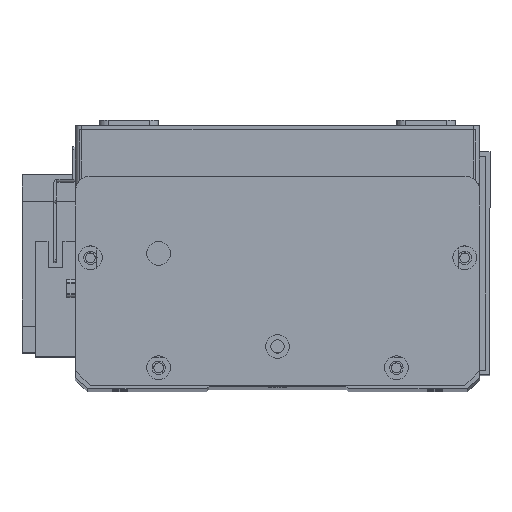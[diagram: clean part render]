
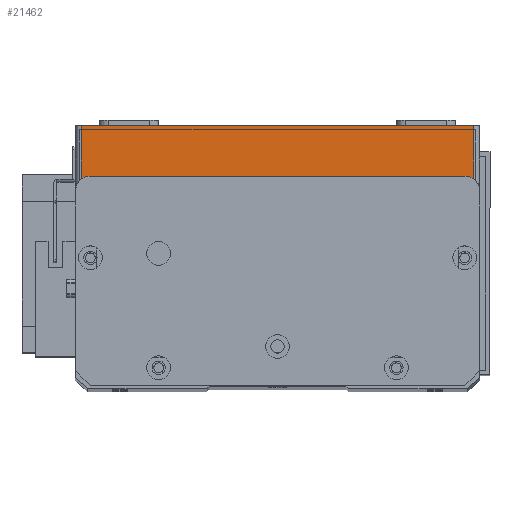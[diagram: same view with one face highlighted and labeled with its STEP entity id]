
A CAD part, top view. The second image highlights one B-rep face of the part: STEP entity #21462.
In plain terms, the highlighted planar face has unit normal (0, 0, 1) as drawn and (0, -1, 0) by its records, which use the part's own axes.
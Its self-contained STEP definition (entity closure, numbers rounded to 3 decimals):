
#634 = ORIENTED_EDGE ( 'NONE', *, *, #23243, .T. ) ;
#791 = VERTEX_POINT ( 'NONE', #9481 ) ;
#1176 = FACE_OUTER_BOUND ( 'NONE', #5048, .T. ) ;
#1234 = EDGE_CURVE ( 'NONE', #791, #22932, #22326, .T. ) ;
#2076 = ORIENTED_EDGE ( 'NONE', *, *, #12073, .T. ) ;
#4156 = ORIENTED_EDGE ( 'NONE', *, *, #1234, .T. ) ;
#4462 = CARTESIAN_POINT ( 'NONE',  ( 0., 0., 19.5 ) ) ;
#5048 = EDGE_LOOP ( 'NONE', ( #25828, #634, #2076, #4156 ) ) ;
#6004 = EDGE_CURVE ( 'NONE', #29172, #22932, #23548, .T. ) ;
#6847 = CARTESIAN_POINT ( 'NONE',  ( 2., 0., 0. ) ) ;
#7051 = CARTESIAN_POINT ( 'NONE',  ( 134., 0., 19.5 ) ) ;
#7176 = VECTOR ( 'NONE', #12765, 1000. ) ;
#7634 = DIRECTION ( 'NONE',  ( 0., 1., 0. ) ) ;
#8565 = VERTEX_POINT ( 'NONE', #6847 ) ;
#8878 = LINE ( 'NONE', #19524, #25542 ) ;
#9481 = CARTESIAN_POINT ( 'NONE',  ( 134., 0., 0. ) ) ;
#9691 = CARTESIAN_POINT ( 'NONE',  ( 134., 0., 19.5 ) ) ;
#11253 = DIRECTION ( 'NONE',  ( 1., 0., 0. ) ) ;
#12073 = EDGE_CURVE ( 'NONE', #8565, #791, #8878, .T. ) ;
#12765 = DIRECTION ( 'NONE',  ( 0., 0., -1. ) ) ;
#16606 = PLANE ( 'NONE',  #27271 ) ;
#17216 = CARTESIAN_POINT ( 'NONE',  ( 2., 0., 19.5 ) ) ;
#18192 = VECTOR ( 'NONE', #11253, 1000. ) ;
#19524 = CARTESIAN_POINT ( 'NONE',  ( 0., 0., 0. ) ) ;
#19607 = DIRECTION ( 'NONE',  ( 1., 0., 0. ) ) ;
#19873 = CARTESIAN_POINT ( 'NONE',  ( 2., 0., 19.5 ) ) ;
#19954 = LINE ( 'NONE', #17216, #7176 ) ;
#21235 = CARTESIAN_POINT ( 'NONE',  ( 0., 0., 19.5 ) ) ;
#21462 = ADVANCED_FACE ( 'NONE', ( #1176 ), #16606, .F. ) ;
#22326 = LINE ( 'NONE', #9691, #27540 ) ;
#22932 = VERTEX_POINT ( 'NONE', #7051 ) ;
#23243 = EDGE_CURVE ( 'NONE', #29172, #8565, #19954, .T. ) ;
#23526 = DIRECTION ( 'NONE',  ( 0., 0., 1. ) ) ;
#23548 = LINE ( 'NONE', #4462, #18192 ) ;
#25542 = VECTOR ( 'NONE', #19607, 1000. ) ;
#25828 = ORIENTED_EDGE ( 'NONE', *, *, #6004, .F. ) ;
#26444 = DIRECTION ( 'NONE',  ( 0., 0., 1. ) ) ;
#27271 = AXIS2_PLACEMENT_3D ( 'NONE', #21235, #7634, #23526 ) ;
#27540 = VECTOR ( 'NONE', #26444, 1000. ) ;
#29172 = VERTEX_POINT ( 'NONE', #19873 ) ;
